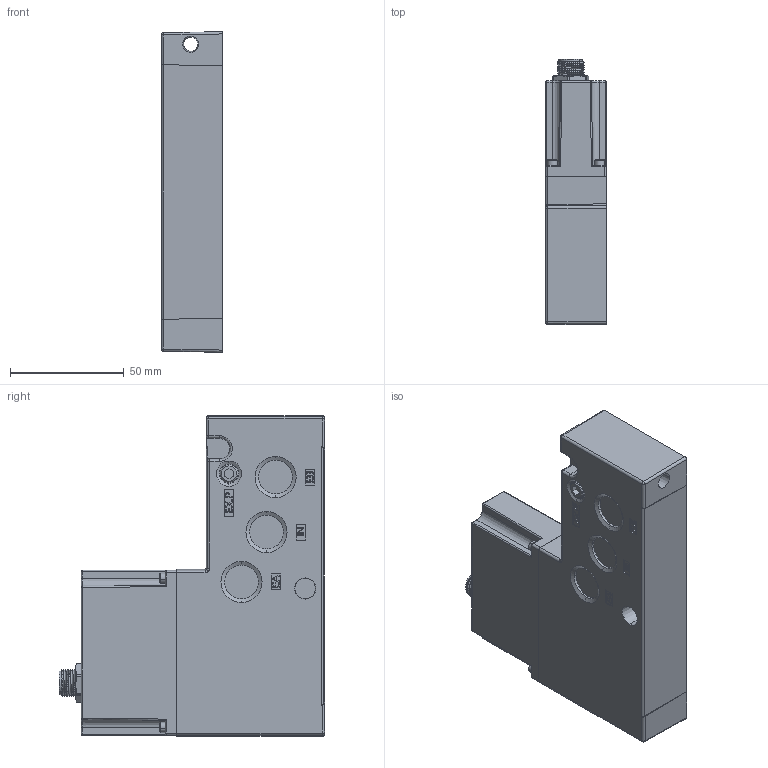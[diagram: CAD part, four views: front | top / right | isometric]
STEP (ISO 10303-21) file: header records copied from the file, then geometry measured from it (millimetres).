
FILE_DESCRIPTION (( 'STEP AP214' ), '1' );
FILE_NAME ('CLASS B MIO Link 92.STEP', '2024-08-23T18:45:34', ( '' ), ( '' ), 'SwSTEP 2.0', 'SolidWorks 2020', '' );
FILE_SCHEMA (( 'AUTOMOTIVE_DESIGN' ));
Length unit declared in the file: millimetre
Products named in the file (4): M-M0008-B(SC)_CLASS B; CLASS B MIO Link 92; 32813(SC); 89219(SC)
Assembly tree (3 placements, depth 2):
  CLASS B MIO Link 92
    32813(SC)
    M-M0008-B(SC)_CLASS B
    89219(SC)
Bounding box: 26.8 x 116.52 x 140.98 mm (x, y, z)
Volume: 281958.2 mm3; surface area: 48216.8 mm2
Topology: 19 solids, 19 shells, 1447 faces, 3570 edges, 2179 vertices
Faces by surface type: plane 474, cylinder 449, cone 227, bspline 172, torus 76, sphere 49
Entity records: 141576 total; most frequent: CARTESIAN_POINT 93043, ORIENTED_EDGE 6974, DIRECTION 6492, EDGE_CURVE 3487, AXIS2_PLACEMENT_3D 2408, VERTEX_POINT 2179, LINE 1676, VECTOR 1676
